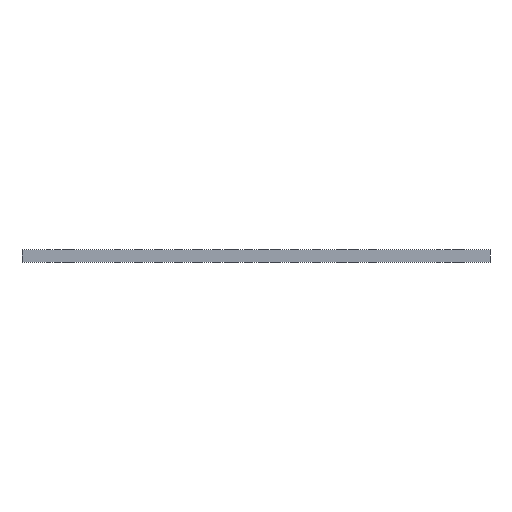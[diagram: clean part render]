
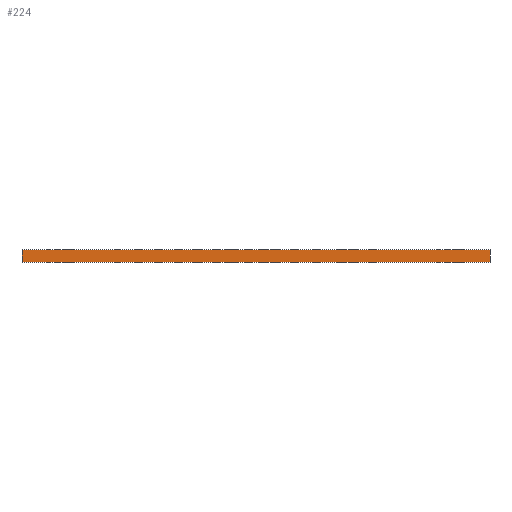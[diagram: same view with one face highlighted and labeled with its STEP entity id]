
A CAD part, front view. The second image highlights one B-rep face of the part: STEP entity #224.
In plain terms, the highlighted planar face has unit normal (0, -1, 0).
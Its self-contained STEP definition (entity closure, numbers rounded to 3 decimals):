
#43 = PLANE('',#44);
#44 = AXIS2_PLACEMENT_3D('',#45,#46,#47);
#45 = CARTESIAN_POINT('',(0.,80.,0.));
#46 = DIRECTION('',(1.,0.,-0.));
#47 = DIRECTION('',(0.,-1.,0.));
#68 = VERTEX_POINT('',#69);
#69 = CARTESIAN_POINT('',(0.,0.,1.6));
#83 = PLANE('',#84);
#84 = AXIS2_PLACEMENT_3D('',#85,#86,#87);
#85 = CARTESIAN_POINT('',(30.,40.,1.6));
#86 = DIRECTION('',(0.,0.,1.));
#87 = DIRECTION('',(1.,0.,-0.));
#95 = EDGE_CURVE('',#96,#68,#98,.T.);
#96 = VERTEX_POINT('',#97);
#97 = CARTESIAN_POINT('',(0.,-0.,0.));
#98 = SURFACE_CURVE('',#99,(#103,#110),.PCURVE_S1.);
#99 = LINE('',#100,#101);
#100 = CARTESIAN_POINT('',(0.,-0.,0.));
#101 = VECTOR('',#102,1.);
#102 = DIRECTION('',(0.,0.,1.));
#103 = PCURVE('',#43,#104);
#104 = DEFINITIONAL_REPRESENTATION('',(#105),#109);
#105 = LINE('',#106,#107);
#106 = CARTESIAN_POINT('',(80.,0.));
#107 = VECTOR('',#108,1.);
#108 = DIRECTION('',(0.,-1.));
#109 = ( GEOMETRIC_REPRESENTATION_CONTEXT(2) 
PARAMETRIC_REPRESENTATION_CONTEXT() REPRESENTATION_CONTEXT('2D SPACE',''
  ) );
#110 = PCURVE('',#111,#116);
#111 = PLANE('',#112);
#112 = AXIS2_PLACEMENT_3D('',#113,#114,#115);
#113 = CARTESIAN_POINT('',(0.,0.,0.));
#114 = DIRECTION('',(0.,1.,0.));
#115 = DIRECTION('',(1.,0.,0.));
#116 = DEFINITIONAL_REPRESENTATION('',(#117),#121);
#117 = LINE('',#118,#119);
#118 = CARTESIAN_POINT('',(0.,0.));
#119 = VECTOR('',#120,1.);
#120 = DIRECTION('',(0.,-1.));
#121 = ( GEOMETRIC_REPRESENTATION_CONTEXT(2) 
PARAMETRIC_REPRESENTATION_CONTEXT() REPRESENTATION_CONTEXT('2D SPACE',''
  ) );
#137 = PLANE('',#138);
#138 = AXIS2_PLACEMENT_3D('',#139,#140,#141);
#139 = CARTESIAN_POINT('',(30.,40.,0.));
#140 = DIRECTION('',(0.,0.,1.));
#141 = DIRECTION('',(1.,0.,-0.));
#170 = PLANE('',#171);
#171 = AXIS2_PLACEMENT_3D('',#172,#173,#174);
#172 = CARTESIAN_POINT('',(60.,0.,0.));
#173 = DIRECTION('',(-1.,0.,0.));
#174 = DIRECTION('',(0.,1.,0.));
#224 = ADVANCED_FACE('',(#225),#111,.F.);
#225 = FACE_BOUND('',#226,.F.);
#226 = EDGE_LOOP('',(#227,#228,#251,#274));
#227 = ORIENTED_EDGE('',*,*,#95,.T.);
#228 = ORIENTED_EDGE('',*,*,#229,.T.);
#229 = EDGE_CURVE('',#68,#230,#232,.T.);
#230 = VERTEX_POINT('',#231);
#231 = CARTESIAN_POINT('',(60.,0.,1.6));
#232 = SURFACE_CURVE('',#233,(#237,#244),.PCURVE_S1.);
#233 = LINE('',#234,#235);
#234 = CARTESIAN_POINT('',(0.,0.,1.6));
#235 = VECTOR('',#236,1.);
#236 = DIRECTION('',(1.,0.,0.));
#237 = PCURVE('',#111,#238);
#238 = DEFINITIONAL_REPRESENTATION('',(#239),#243);
#239 = LINE('',#240,#241);
#240 = CARTESIAN_POINT('',(0.,-1.6));
#241 = VECTOR('',#242,1.);
#242 = DIRECTION('',(1.,0.));
#243 = ( GEOMETRIC_REPRESENTATION_CONTEXT(2) 
PARAMETRIC_REPRESENTATION_CONTEXT() REPRESENTATION_CONTEXT('2D SPACE',''
  ) );
#244 = PCURVE('',#83,#245);
#245 = DEFINITIONAL_REPRESENTATION('',(#246),#250);
#246 = LINE('',#247,#248);
#247 = CARTESIAN_POINT('',(-30.,-40.));
#248 = VECTOR('',#249,1.);
#249 = DIRECTION('',(1.,0.));
#250 = ( GEOMETRIC_REPRESENTATION_CONTEXT(2) 
PARAMETRIC_REPRESENTATION_CONTEXT() REPRESENTATION_CONTEXT('2D SPACE',''
  ) );
#251 = ORIENTED_EDGE('',*,*,#252,.F.);
#252 = EDGE_CURVE('',#253,#230,#255,.T.);
#253 = VERTEX_POINT('',#254);
#254 = CARTESIAN_POINT('',(60.,-0.,0.));
#255 = SURFACE_CURVE('',#256,(#260,#267),.PCURVE_S1.);
#256 = LINE('',#257,#258);
#257 = CARTESIAN_POINT('',(60.,-0.,0.));
#258 = VECTOR('',#259,1.);
#259 = DIRECTION('',(0.,0.,1.));
#260 = PCURVE('',#111,#261);
#261 = DEFINITIONAL_REPRESENTATION('',(#262),#266);
#262 = LINE('',#263,#264);
#263 = CARTESIAN_POINT('',(60.,0.));
#264 = VECTOR('',#265,1.);
#265 = DIRECTION('',(0.,-1.));
#266 = ( GEOMETRIC_REPRESENTATION_CONTEXT(2) 
PARAMETRIC_REPRESENTATION_CONTEXT() REPRESENTATION_CONTEXT('2D SPACE',''
  ) );
#267 = PCURVE('',#170,#268);
#268 = DEFINITIONAL_REPRESENTATION('',(#269),#273);
#269 = LINE('',#270,#271);
#270 = CARTESIAN_POINT('',(0.,0.));
#271 = VECTOR('',#272,1.);
#272 = DIRECTION('',(0.,-1.));
#273 = ( GEOMETRIC_REPRESENTATION_CONTEXT(2) 
PARAMETRIC_REPRESENTATION_CONTEXT() REPRESENTATION_CONTEXT('2D SPACE',''
  ) );
#274 = ORIENTED_EDGE('',*,*,#275,.F.);
#275 = EDGE_CURVE('',#96,#253,#276,.T.);
#276 = SURFACE_CURVE('',#277,(#281,#288),.PCURVE_S1.);
#277 = LINE('',#278,#279);
#278 = CARTESIAN_POINT('',(0.,-0.,0.));
#279 = VECTOR('',#280,1.);
#280 = DIRECTION('',(1.,0.,0.));
#281 = PCURVE('',#111,#282);
#282 = DEFINITIONAL_REPRESENTATION('',(#283),#287);
#283 = LINE('',#284,#285);
#284 = CARTESIAN_POINT('',(0.,0.));
#285 = VECTOR('',#286,1.);
#286 = DIRECTION('',(1.,0.));
#287 = ( GEOMETRIC_REPRESENTATION_CONTEXT(2) 
PARAMETRIC_REPRESENTATION_CONTEXT() REPRESENTATION_CONTEXT('2D SPACE',''
  ) );
#288 = PCURVE('',#137,#289);
#289 = DEFINITIONAL_REPRESENTATION('',(#290),#294);
#290 = LINE('',#291,#292);
#291 = CARTESIAN_POINT('',(-30.,-40.));
#292 = VECTOR('',#293,1.);
#293 = DIRECTION('',(1.,0.));
#294 = ( GEOMETRIC_REPRESENTATION_CONTEXT(2) 
PARAMETRIC_REPRESENTATION_CONTEXT() REPRESENTATION_CONTEXT('2D SPACE',''
  ) );
